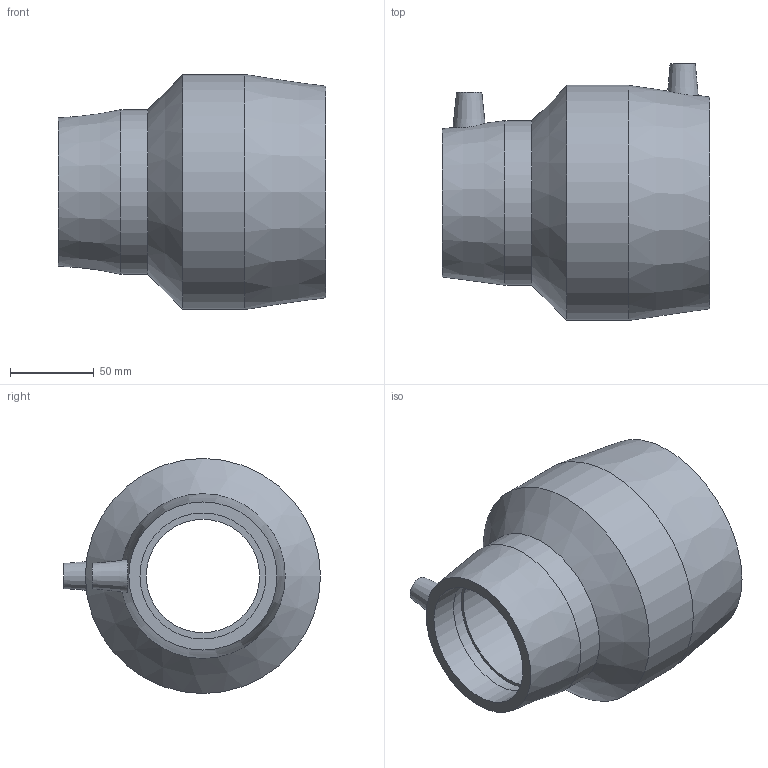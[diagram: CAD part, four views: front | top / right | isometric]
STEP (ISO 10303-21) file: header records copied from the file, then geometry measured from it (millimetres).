
FILE_DESCRIPTION(/* description */ ('PLASSON REDUCING COUPLER 110-75'),/* implementation_level */ '2;1');
FILE_NAME(/* name */ 'C:\Dropbox\KIMPROJECTS-Inventor 2019\99-16-3568-Processing\ElectroFusion Fittings\491104\stp\491104110075.stp',/* time_stamp */ '2022-11-17T14:02:19+02:00',/* author */ ('KIM'),/* organization */ (''),/* preprocessor_version */ 'ST-DEVELOPER v17.2',/* originating_system */ 'Autodesk Inventor 2019',/* authorisation */ '');
FILE_SCHEMA (('AUTOMOTIVE_DESIGN { 1 0 10303 214 3 1 1 }'));
Length unit declared in the file: millimetre
Products named in the file (1): 491104110075
Bounding box: 159 x 153 x 140 mm (x, y, z)
Volume: 706108 mm3; surface area: 123686.5 mm2
Topology: 1 solids, 1 shells, 31 faces, 72 edges, 53 vertices
Faces by surface type: plane 12, cylinder 11, cone 8
Full cylindrical faces by diameter (mm): 4 x2, 10 x2, 67.5 x1, 75 x2, 98 x1, 110 x2, 140 x1
Entity records: 1040 total; most frequent: CARTESIAN_POINT 225, DIRECTION 181, ORIENTED_EDGE 144, AXIS2_PLACEMENT_3D 81, EDGE_CURVE 72, VERTEX_POINT 53, CIRCLE 49, EDGE_LOOP 43
